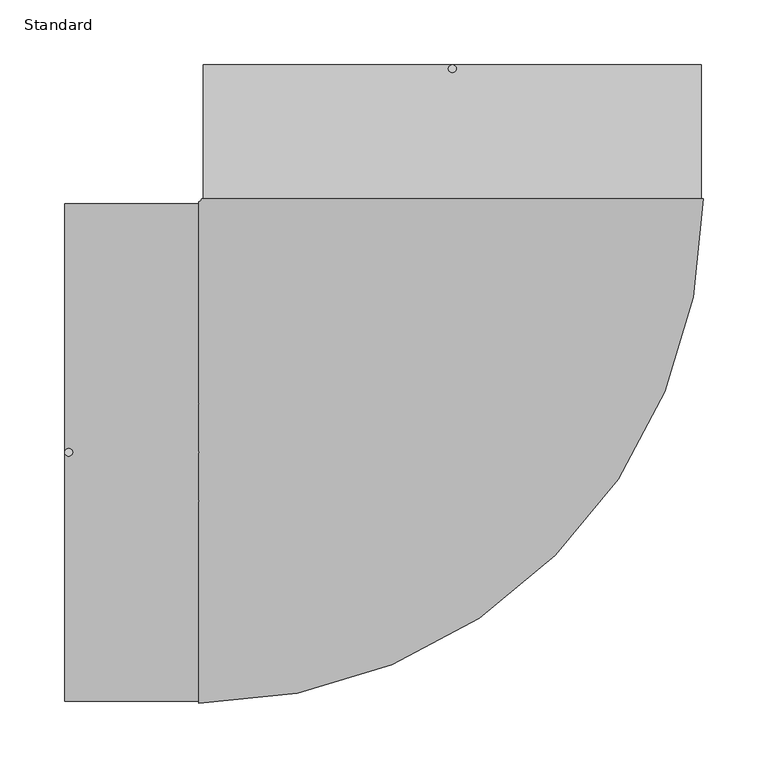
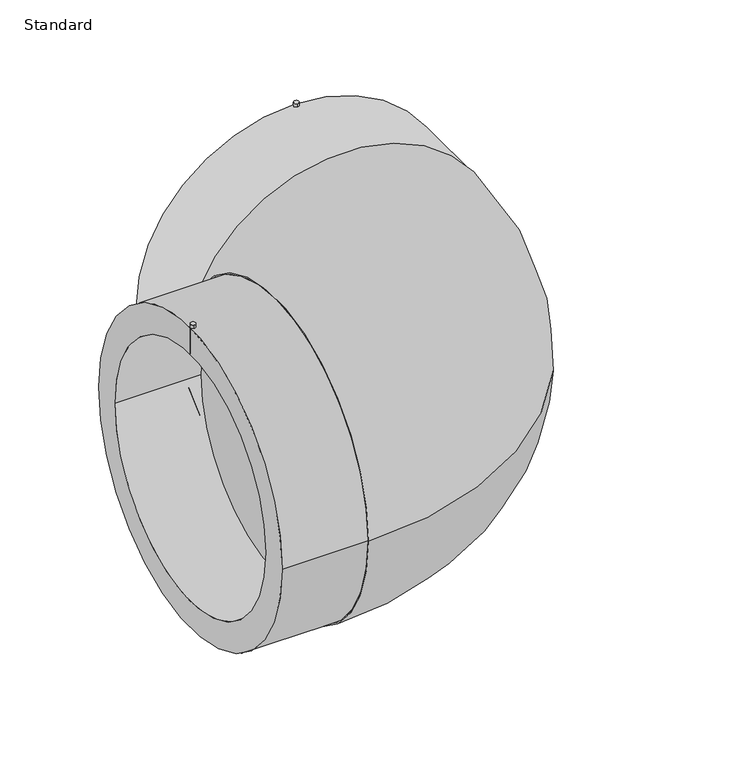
"""IFC4 building model written with IfcOpenShell, lengths in millimetres: pipe fitting geometry, EGB_VASEN_ PPR_Codo electrosoldable 90 WXRD200_Codo electrosoldable 45 WXRD220 : Standard."""

from ifc_helpers import new_model, si_unit, point, frame, frame_2d, origin, place, context, project, spatial, polyline, circle_curve, ellipse_curve, trimmed, segment, composite_curve, outline, extrude, source, transform, mapped, element, save
from ifc_brep_helpers import plane_surface, cylinder_surface, revolved_surface, advanced_brep


def standard_7b56c492(model_context):
    return source(origin(), model_context, "Body", "SolidModel", [
        advanced_brep(
        [(-299.0, -192.0, 0.0), (-299.0, 192.0, 0.0), (-299.0, -157.5, 0.0), (-299.0, 157.5, 0.0), (-195.5, -192.0, 0.0), (-195.5, 192.0, 0.0), (-195.5, -157.5, 0.0), (-195.5, 157.5, 0.0), (-195.5, -193.5, 0.0), (-195.5, 193.5, 0.0), (193.5, 195.5, 0.0), (-193.5, 195.5, 0.0), (192.0, 195.5, 0.0), (-192.0, 195.5, 0.0), (157.5, 195.5, 0.0), (-157.5, 195.5, 0.0), (192.0, 299.0, 0.0), (-192.0, 299.0, 0.0), (157.5, 299.0, 0.0), (-157.5, 299.0, 0.0)],
        [
            (0, 1, circle_curve(frame((-299.0, 0.0, 0.0), z_axis=(-1.0, 0.0, 0.0), x_axis=(0.0, 1.0, 0.0)), 192.0)),
            (1, 0, circle_curve(frame((-299.0, 0.0, 0.0), z_axis=(-1.0, 0.0, 0.0), x_axis=(0.0, 1.0, 0.0)), 192.0)),
            (2, 3, circle_curve(frame((-299.0, 0.0, 0.0), z_axis=(1.0, 0.0, 0.0), x_axis=(0.0, 1.0, 0.0)), 157.5)),
            (3, 2, circle_curve(frame((-299.0, 0.0, 0.0), z_axis=(1.0, 0.0, 0.0), x_axis=(0.0, 1.0, 0.0)), 157.5)),
            (0, 4),
            (4, 5, circle_curve(frame((-195.5, 0.0, 0.0), z_axis=(-1.0, 0.0, 0.0), x_axis=(0.0, 1.0, 0.0)), 192.0)),
            (5, 1),
            (5, 4, circle_curve(frame((-195.5, 0.0, 0.0), z_axis=(-1.0, 0.0, 0.0), x_axis=(0.0, 1.0, 0.0)), 192.0)),
            (2, 6),
            (6, 7, circle_curve(frame((-195.5, 0.0, 0.0), z_axis=(1.0, 0.0, 0.0), x_axis=(0.0, 1.0, 0.0)), 157.5)),
            (7, 3),
            (7, 6, circle_curve(frame((-195.5, 0.0, 0.0), z_axis=(1.0, 0.0, 0.0), x_axis=(0.0, 1.0, 0.0)), 157.5)),
            (8, 9, circle_curve(frame((-195.5, 0.0, 0.0), z_axis=(-1.0, 0.0, 0.0), x_axis=(0.0, 1.0, 0.0)), 193.5)),
            (9, 8, circle_curve(frame((-195.5, 0.0, 0.0), z_axis=(-1.0, 0.0, 0.0), x_axis=(0.0, 1.0, 0.0)), 193.5)),
            (10, 11, circle_curve(frame((0.0, 195.5, 0.0), z_axis=(0.0, 1.0, 0.0), x_axis=(-1.0, 0.0, 0.0)), 193.5)),
            (11, 10, circle_curve(frame((0.0, 195.5, 0.0), z_axis=(0.0, 1.0, 0.0), x_axis=(-1.0, 0.0, 0.0)), 193.5)),
            (12, 13, circle_curve(frame((0.0, 195.5, 0.0), z_axis=(0.0, -1.0, 0.0), x_axis=(-1.0, 0.0, 0.0)), 192.0)),
            (13, 12, circle_curve(frame((0.0, 195.5, 0.0), z_axis=(0.0, -1.0, 0.0), x_axis=(-1.0, 0.0, 0.0)), 192.0)),
            (14, 15, circle_curve(frame((0.0, 195.5, 0.0), z_axis=(0.0, 1.0, 0.0), x_axis=(-1.0, 0.0, 0.0)), 157.5)),
            (15, 14, circle_curve(frame((0.0, 195.5, 0.0), z_axis=(0.0, 1.0, 0.0), x_axis=(-1.0, 0.0, 0.0)), 157.5)),
            (8, 10, circle_curve(frame((-195.5, 195.5, 0.0), z_axis=(0.0, 0.0, 1.0), x_axis=(0.0, -1.0, 0.0)), 389.0)),
            (11, 9, circle_curve(frame((-195.5, 195.5, 0.0), z_axis=(0.0, 0.0, -1.0), x_axis=(0.0, -1.0, 0.0)), 2.0)),
            (16, 17, circle_curve(frame((0.0, 299.0, 0.0), z_axis=(0.0, 1.0, 0.0), x_axis=(-1.0, 0.0, 0.0)), 192.0)),
            (17, 16, circle_curve(frame((0.0, 299.0, 0.0), z_axis=(0.0, 1.0, 0.0), x_axis=(-1.0, 0.0, 0.0)), 192.0)),
            (18, 19, circle_curve(frame((0.0, 299.0, 0.0), z_axis=(0.0, -1.0, 0.0), x_axis=(-1.0, 0.0, 0.0)), 157.5)),
            (19, 18, circle_curve(frame((0.0, 299.0, 0.0), z_axis=(0.0, -1.0, 0.0), x_axis=(-1.0, 0.0, 0.0)), 157.5)),
            (17, 13),
            (12, 16),
            (19, 15),
            (14, 18),
        ],
        [
            plane_surface(frame((-299.0, 0.0, 0.0), z_axis=(-1.0, 0.0, 0.0), x_axis=(0.0, 0.0, 1.0))),
            cylinder_surface(frame((-299.0, 0.0, 0.0), z_axis=(-1.0, 0.0, 0.0), x_axis=(0.0, 1.0, 0.0)), 192.0),
            revolved_surface(polyline([(-195.5, 157.5, 0.0), (-299.0, 157.5, 0.0)]), (-299.0, 0.0, 0.0), (1.0, 0.0, 0.0)),
            plane_surface(frame((-195.5, 0.0, 0.0), z_axis=(-1.0, 0.0, 0.0), x_axis=(0.0, 0.0, 1.0))),
            plane_surface(frame((0.0, 195.5, 0.0), z_axis=(0.0, 1.0, 0.0), x_axis=(0.0, 0.0, 1.0))),
            revolved_surface(trimmed(ellipse_curve(frame((-195.5, 0.0, 0.0), z_axis=(-1.0, 0.0, 0.0), x_axis=(0.0, 1.0, 0.0)), 193.5, 193.5), [point((-195.5, -193.5, 0.0))], [point((-195.5, 193.5, 0.0))], True, "CARTESIAN"), (-195.5, 195.5, 0.0), (0.0, 0.0, 1.0)),
            revolved_surface(trimmed(ellipse_curve(frame((-195.5, 0.0, 0.0), z_axis=(-1.0, 0.0, 0.0), x_axis=(0.0, 1.0, 0.0)), 193.5, 193.5), [point((-195.5, 193.5, 0.0))], [point((-195.5, -193.5, 0.0))], True, "CARTESIAN"), (-195.5, 195.5, 0.0), (0.0, 0.0, 1.0)),
            plane_surface(frame((0.0, 299.0, 0.0), z_axis=(0.0, 1.0, 0.0), x_axis=(0.0, 0.0, 1.0))),
            cylinder_surface(frame((0.0, 195.5, 0.0), z_axis=(0.0, -1.0, 0.0), x_axis=(-1.0, 0.0, 0.0)), 192.0),
            revolved_surface(polyline([(-157.5, 299.0, 0.0), (-157.5, 195.5, 0.0)]), (0.0, 195.5, 0.0), (0.0, 1.0, 0.0)),
        ],
        [
            (0, [[1, 2], [3, 4]]),
            (1, [[-1, 5, 6, 7]]),
            (1, [[-2, -7, 8, -5]]),
            (2, [[-3, 9, 10, 11]]),
            (2, [[-4, -11, 12, -9]]),
            (3, [[-10, -12]]),
            (3, [[13, 14], [-6, -8]]),
            (4, [[15, 16], [17, 18]]),
            (4, [[19, 20]]),
            (5, [[-13, 21, -16, 22]]),
            (6, [[-14, -22, -15, -21]]),
            (7, [[23, 24], [25, 26]]),
            (8, [[-24, 27, -17, 28]]),
            (8, [[-23, -28, -18, -27]]),
            (9, [[-26, 29, -19, 30]]),
            (9, [[-25, -30, -20, -29]]),
        ],
    ),
        extrude(outline(composite_curve([segment(trimmed(circle_curve(frame_2d((0.0, 296.0)), 3.0), [point((0.0, 293.0))], [point((0.0, 299.0))], False, "CARTESIAN"), True, "CONTINUOUS"), segment(trimmed(circle_curve(frame_2d((0.0, 296.0)), 3.0), [point((0.0, 299.0))], [point((0.0, 293.0))], False, "CARTESIAN"), True, "CONTINUOUS")], self_intersect=False)), frame((0.0, 0.0, 158.5), z_axis=(0.0, 0.0, 1.0), x_axis=(1.0, 0.0, 0.0)), (0.0, 0.0, 1.0), 38.0),
        extrude(outline(composite_curve([segment(trimmed(circle_curve(frame_2d((-296.0, 0.0)), 3.0), [point((-296.0, -3.0))], [point((-296.0, 3.0))], False, "CARTESIAN"), True, "CONTINUOUS"), segment(trimmed(circle_curve(frame_2d((-296.0, 0.0)), 3.0), [point((-296.0, 3.0))], [point((-296.0, -3.0))], False, "CARTESIAN"), True, "CONTINUOUS")], self_intersect=False)), frame((0.0, 0.0, 158.5), z_axis=(0.0, 0.0, 1.0), x_axis=(1.0, 0.0, 0.0)), (0.0, 0.0, 1.0), 38.0),
    ])


if __name__ == "__main__":
    model = new_model("IFC4")
    model_context = context("Model", 3, world=origin())
    ifc_project = project(units=[si_unit("LENGTHUNIT", "METRE", prefix="MILLI")], contexts=[model_context])
    site = spatial("IfcSite", under=ifc_project)
    building = spatial("IfcBuilding", under=site)
    placement = place(None, origin())
    standard_shape = standard_7b56c492(model_context)
    element("IfcPipeFitting", 1, ObjectType="EGB_VASEN_ PPR_Codo electrosoldable 90 WXRD200_Codo electrosoldable 45 WXRD220 : Standard", at=placement, inside=building, context=model_context, shape_type="MappedRepresentation", body=[
        mapped(standard_shape, transform((0.0, 0.0, 0.0), x_axis=(1.0, 0.0, 0.0), y_axis=(0.0, 1.0, 0.0), z_axis=(0.0, 0.0, 1.0))),
    ])
    save(model, "model.ifc")
